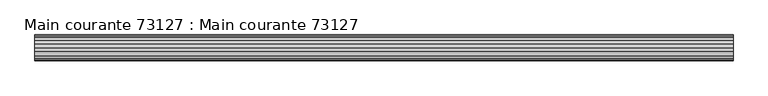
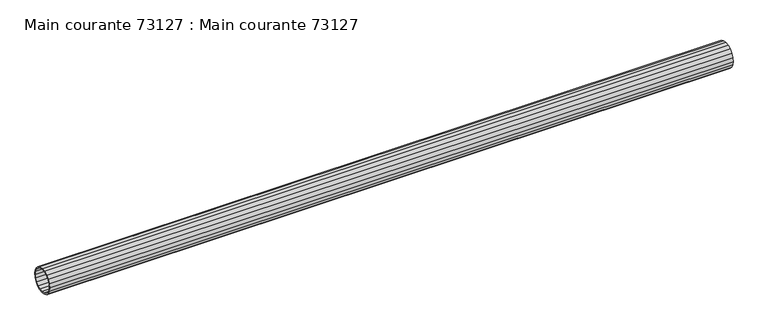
"""IFC4 building model written with IfcOpenShell, lengths in millimetres: beam geometry, Main courante 73127 : Main courante 73127."""

from ifc_helpers import new_model, si_unit, frame, origin, place, context, project, spatial, polyline, outline, extrude, source, transform, mapped, element, save


def main_courante_73127_main_courante_73127_70c79c41(model_context):
    return source(origin(), model_context, "Body", "SweptSolid", [
        extrude(outline(polyline([(-35749.8127604, 8787.9680149), (-35742.35, 8789.15), (-35734.8872396, 8787.9680149), (-35728.1549862, 8784.5377604), (-35722.8122396, 8779.1950138), (-35719.3819851, 8772.4627604), (-35718.2, 8765.0), (-35719.3819851, 8757.5372396), (-35722.8122396, 8750.8049862), (-35728.1549862, 8745.4622396), (-35734.8872396, 8742.0319851), (-35742.35, 8740.85), (-35749.8127604, 8742.0319851), (-35756.5450138, 8745.4622396), (-35761.8877604, 8750.8049862), (-35765.3180149, 8757.5372396), (-35766.5, 8765.0), (-35765.3180149, 8772.4627604), (-35761.8877604, 8779.1950138), (-35756.5450138, 8784.5377604), (-35749.8127604, 8787.9680149)]), holes=[polyline([(-35721.7596264, 8771.6902179), (-35724.8347821, 8777.7255507), (-35729.6244493, 8782.5152179), (-35735.6597821, 8785.5903736), (-35742.35, 8786.65), (-35749.0402179, 8785.5903736), (-35755.0755507, 8782.5152179), (-35759.8652179, 8777.7255507), (-35762.9403736, 8771.6902179), (-35764.0, 8765.0), (-35762.9403736, 8758.3097821), (-35759.8652179, 8752.2744493), (-35755.0755507, 8747.4847821), (-35749.0402179, 8744.4096264), (-35742.35, 8743.35), (-35735.6597821, 8744.4096264), (-35729.6244493, 8747.4847821), (-35724.8347821, 8752.2744493), (-35721.7596264, 8758.3097821), (-35720.7, 8765.0), (-35721.7596264, 8771.6902179)])]), frame((-67.5105653, 0.0, 0.0), z_axis=(1.0, 0.0, 0.0), x_axis=(0.0, 1.0, 0.0)), (0.0, 0.0, 1.0), 1294.0105652),
    ])


if __name__ == "__main__":
    model = new_model("IFC4")
    model_context = context("Model", 3, world=origin())
    ifc_project = project(units=[si_unit("LENGTHUNIT", "METRE", prefix="MILLI")], contexts=[model_context])
    site = spatial("IfcSite", under=ifc_project)
    building = spatial("IfcBuilding", under=site)
    placement = place(None, origin())
    main_courante_73127_main_courante_73127_shape = main_courante_73127_main_courante_73127_70c79c41(model_context)
    element("IfcBeam", 1, ObjectType="Main courante 73127 : Main courante 73127", at=placement, inside=building, context=model_context, shape_type="MappedRepresentation", body=[
        mapped(main_courante_73127_main_courante_73127_shape, transform((0.0, 0.0, 0.0), x_axis=(1.0, 0.0, 0.0), y_axis=(0.0, 1.0, 0.0), z_axis=(0.0, 0.0, 1.0))),
    ])
    save(model, "model.ifc")
